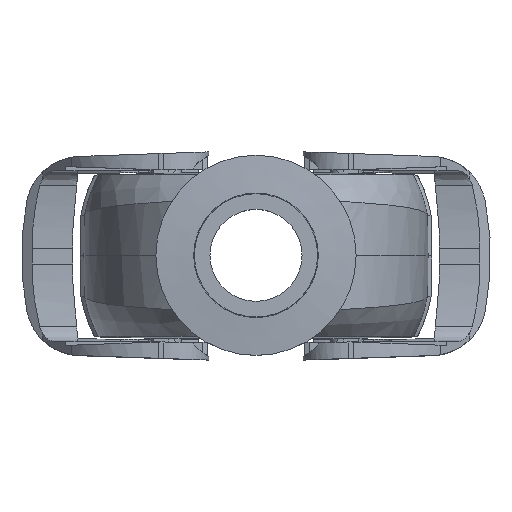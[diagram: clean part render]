
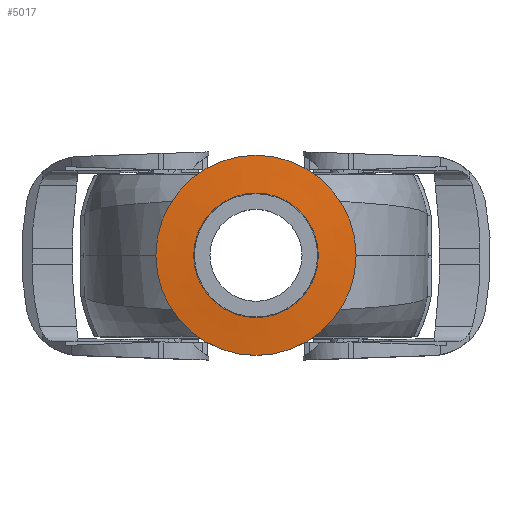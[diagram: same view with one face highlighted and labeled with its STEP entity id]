
A CAD part, top view. The second image highlights one B-rep face of the part: STEP entity #5017.
In plain terms, the highlighted conical face has half-angle 85 degrees and reference radius 27.25 mm.
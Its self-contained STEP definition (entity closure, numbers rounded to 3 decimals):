
#3774=CONICAL_SURFACE('',#16930,27.25,85.);
#3866=FACE_BOUND('',#6437,.T.);
#3867=FACE_BOUND('',#6438,.T.);
#5017=ADVANCED_FACE('',(#3866,#3867),#3774,.T.);
#6437=EDGE_LOOP('',(#9529));
#6438=EDGE_LOOP('',(#9530));
#9529=ORIENTED_EDGE('',*,*,#12825,.T.);
#9530=ORIENTED_EDGE('',*,*,#12826,.T.);
#11228=VERTEX_POINT('',#26635);
#11229=VERTEX_POINT('',#26637);
#12825=EDGE_CURVE('',#11228,#11228,#15496,.T.);
#12826=EDGE_CURVE('',#11229,#11229,#15497,.T.);
#15496=CIRCLE('',#16928,16.934);
#15497=CIRCLE('',#16929,27.2);
#16928=AXIS2_PLACEMENT_3D('',#26634,#19542,#19543);
#16929=AXIS2_PLACEMENT_3D('',#26636,#19544,#19545);
#16930=AXIS2_PLACEMENT_3D('',#26638,#19546,#19547);
#19542=DIRECTION('',(0.,0.,-1.));
#19543=DIRECTION('',(1.,0.,0.));
#19544=DIRECTION('',(0.,0.,1.));
#19545=DIRECTION('',(-1.,0.,0.));
#19546=DIRECTION('',(0.,0.,-1.));
#19547=DIRECTION('',(-1.,0.,0.));
#26634=CARTESIAN_POINT('',(0.,0.,98.103));
#26635=CARTESIAN_POINT('',(16.934,0.,98.103));
#26636=CARTESIAN_POINT('',(0.,0.,97.204));
#26637=CARTESIAN_POINT('',(-27.2,0.,97.204));
#26638=CARTESIAN_POINT('',(0.,0.,97.2));
